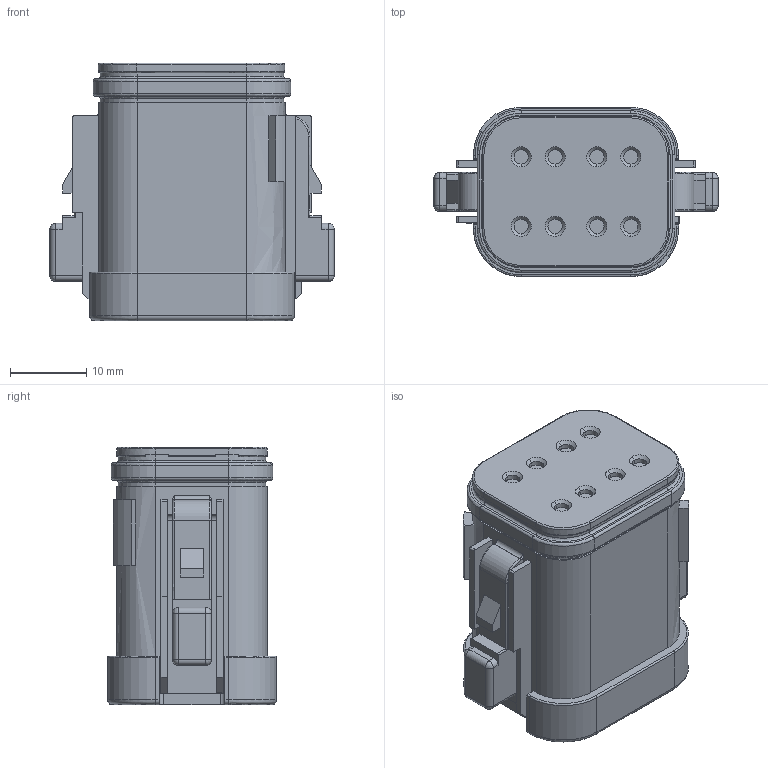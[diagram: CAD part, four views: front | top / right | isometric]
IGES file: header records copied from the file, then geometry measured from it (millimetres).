
Start section:  PTC IGES file: c-dt06-08sc-c017-99-3d.igs
Global section: file name: c-dt06-08sc-c017-99-3d.igs; native system: Pro/ENGINEER by Parametric Technology Corporation; preprocessor: 2011490; author: workeradm; organization: Unknown; units: millimetre
Bounding box: 37.21 x 22.15 x 33.71 mm (x, y, z)
Surface area: 5853.1 mm2 (no closed solid volume)
Topology: 0 solids, 0 shells, 480 faces, 2300 edges, 2300 vertices
Faces by surface type: revolution 300, bspline 180
